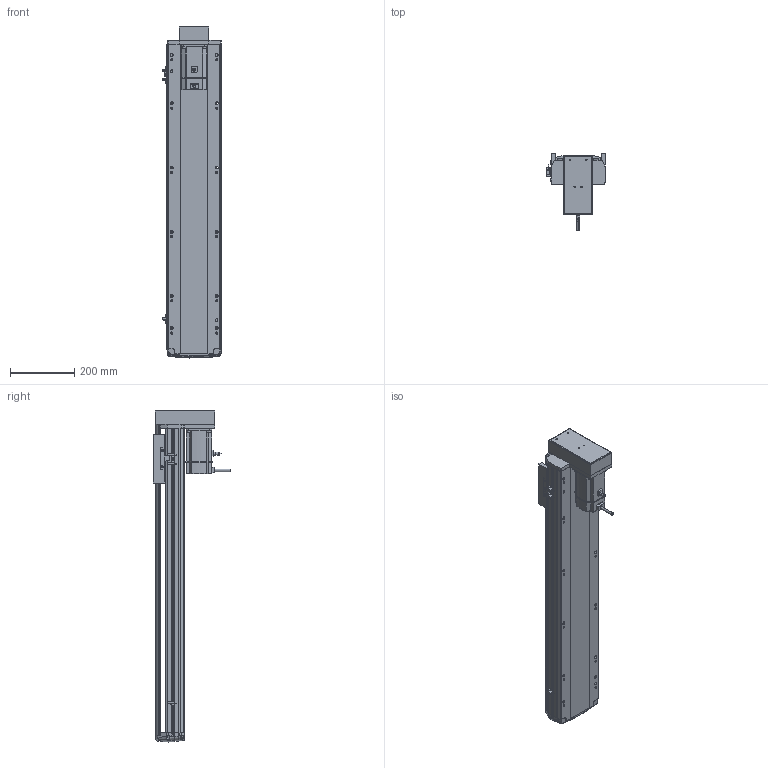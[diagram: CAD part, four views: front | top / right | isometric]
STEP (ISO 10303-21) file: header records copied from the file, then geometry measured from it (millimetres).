
FILE_DESCRIPTION (( 'STEP AP214' ), '1' );
FILE_NAME ('RTH17-XX-750-M-M75-C4.STEP', '2025-10-24T10:25:34', ( '' ), ( '' ), 'SwSTEP 2.0', 'SolidWorks 2018', '' );
FILE_SCHEMA (( 'AUTOMOTIVE_DESIGN' ));
Length unit declared in the file: millimetre
Products named in the file (10): N_RTH-BL-012 感应片(外置)^RTH17-XX-XX-M-M75-C4（方程式）; N_RTH17-M-007上盖^RTH17-XX-XX-M-M75-C4（方程式）; N_RTH17-E-004丝杆螺母连接座^RTH17-XX-XX-M-M75-C4（方程式）; N_OMRON EE-SX672 換覜ん^RTH17-XX-XX-M-M75-C4ㄗ源最宒ㄘ; N_RTH17-GY-001P^RTH17-XX-XX-M-M75-C4（方程式）; N_M75^RTH17-XX-XX-M-M75-C4（方程式）; N_RTH17-M-011底座^RTH17-XX-XX-M-M75-C4（方程式）; N_RTH17-M-018盖子^RTH17-XX-XX-M-M75-C4（方程式）; RTH17-XX-750-M-M75-C4; N_RTH17-M-008-P75电机安装板下折750W^RTH17-XX-XX-M-M75-C4（方程式）
Assembly tree (11 placements, depth 2):
  RTH17-XX-750-M-M75-C4
    N_RTH17-M-011底座^RTH17-XX-XX-M-M75-C4（方程式）
    N_RTH17-M-007上盖^RTH17-XX-XX-M-M75-C4（方程式）
    N_M75^RTH17-XX-XX-M-M75-C4（方程式）
    N_OMRON EE-SX672 換覜ん^RTH17-XX-XX-M-M75-C4ㄗ源最宒ㄘ  x3
    N_RTH-BL-012 感应片(外置)^RTH17-XX-XX-M-M75-C4（方程式）
    N_RTH17-M-008-P75电机安装板下折750W^RTH17-XX-XX-M-M75-C4（方程式）
    N_RTH17-M-018盖子^RTH17-XX-XX-M-M75-C4（方程式）
    N_RTH17-E-004丝杆螺母连接座^RTH17-XX-XX-M-M75-C4（方程式）
    N_RTH17-GY-001P^RTH17-XX-XX-M-M75-C4（方程式）
Bounding box: 183.5 x 240.7 x 1033.19 mm (x, y, z)
Volume: 8539871.9 mm3; surface area: 1196383.8 mm2
Topology: 10 solids, 12 shells, 1757 faces, 4850 edges, 3140 vertices
Faces by surface type: plane 830, cylinder 513, bspline 377, cone 28, torus 9
Entity records: 51379 total; most frequent: CARTESIAN_POINT 20520, ORIENTED_EDGE 6724, DIRECTION 5584, EDGE_CURVE 3366, VERTEX_POINT 2176, AXIS2_PLACEMENT_3D 1879, LINE 1826, VECTOR 1826
